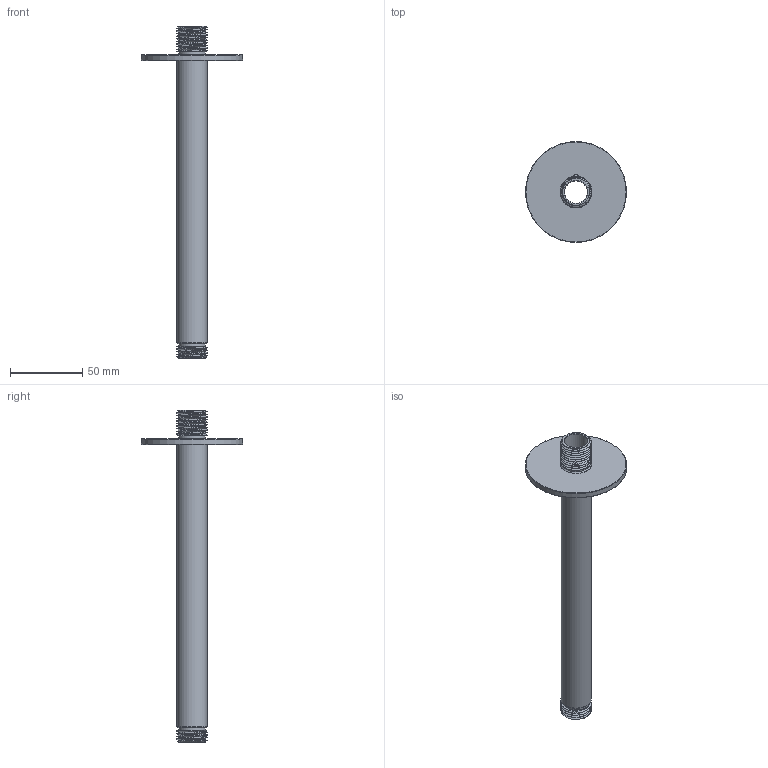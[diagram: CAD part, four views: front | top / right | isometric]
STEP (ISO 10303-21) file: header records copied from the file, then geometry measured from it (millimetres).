
FILE_DESCRIPTION(/* description */ ('Unknown'),/* implementation_level */ '2;1');
FILE_NAME(/* name */ 'RE037',/* time_stamp */ '2023-07-27T14:37:22+02:00',/* author */ ('Unknown'),/* organization */ ('Unknown'),/* preprocessor_version */ 'ST-DEVELOPER v18.102',/* originating_system */ 'Solid Edge',/* authorisation */ 'Unknown');
FILE_SCHEMA (('AUTOMOTIVE_DESIGN {1 0 10303 214 3 1 1}'));
Length unit declared in the file: millimetre
Products named in the file (4): RE037; C021099_22300ZZ; C073027_22300VC; C140006_00600ZZ
Assembly tree (3 placements, depth 2):
  RE037
    C021099_22300ZZ
    C073027_22300VC
    C140006_00600ZZ
Bounding box: 70 x 70 x 230 mm (x, y, z)
Volume: 47960.6 mm3; surface area: 37177 mm2
Topology: 3 solids, 3 shells, 48 faces, 108 edges, 68 vertices
Faces by surface type: bspline 15, plane 11, cylinder 11, cone 8, torus 3
Full cylindrical faces by diameter (mm): 16 x1, 18.6 x2, 21.3 x1, 21.5 x1, 24.6 x1, 70 x1
Entity records: 4487 total; most frequent: CARTESIAN_POINT 3529, ORIENTED_EDGE 172, DIRECTION 142, EDGE_CURVE 86, FACE_BOUND 70, AXIS2_PLACEMENT_3D 70, EDGE_LOOP 69, VERTEX_POINT 62
